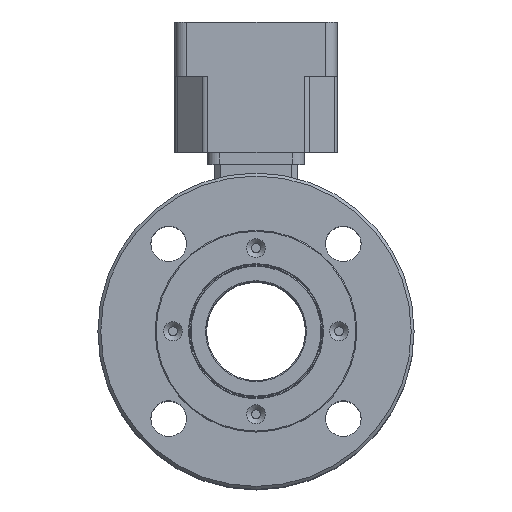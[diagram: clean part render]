
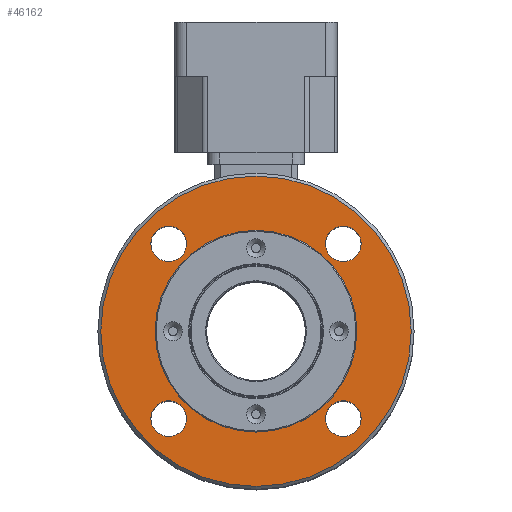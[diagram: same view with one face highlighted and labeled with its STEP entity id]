
A CAD part, top view. The second image highlights one B-rep face of the part: STEP entity #46162.
In plain terms, the highlighted planar face has unit normal (0, 0, 1).
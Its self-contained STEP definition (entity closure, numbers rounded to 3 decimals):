
#1590=FACE_BOUND('',#5985,.T.);
#1591=FACE_BOUND('',#5986,.T.);
#1592=FACE_BOUND('',#5987,.T.);
#1593=FACE_BOUND('',#5988,.T.);
#1594=FACE_BOUND('',#5989,.T.);
#1879=PLANE('',#48890);
#3383=FACE_OUTER_BOUND('',#5984,.T.);
#5984=EDGE_LOOP('',(#30133));
#5985=EDGE_LOOP('',(#30134));
#5986=EDGE_LOOP('',(#30135,#30136));
#5987=EDGE_LOOP('',(#30137,#30138));
#5988=EDGE_LOOP('',(#30139,#30140));
#5989=EDGE_LOOP('',(#30141,#30142));
#17731=CIRCLE('',#48875,9.);
#17732=CIRCLE('',#48876,9.);
#17734=CIRCLE('',#48879,9.);
#17735=CIRCLE('',#48880,9.);
#17737=CIRCLE('',#48883,9.);
#17738=CIRCLE('',#48884,9.);
#17740=CIRCLE('',#48887,9.);
#17741=CIRCLE('',#48888,9.);
#17743=CIRCLE('',#48891,78.5);
#17744=CIRCLE('',#48892,51.);
#18998=VERTEX_POINT('',#63643);
#18999=VERTEX_POINT('',#63644);
#19001=VERTEX_POINT('',#63651);
#19002=VERTEX_POINT('',#63652);
#19004=VERTEX_POINT('',#63659);
#19005=VERTEX_POINT('',#63660);
#19007=VERTEX_POINT('',#63667);
#19008=VERTEX_POINT('',#63668);
#19010=VERTEX_POINT('',#63675);
#19011=VERTEX_POINT('',#63677);
#23326=EDGE_CURVE('',#18998,#18999,#17731,.T.);
#23327=EDGE_CURVE('',#18999,#18998,#17732,.T.);
#23330=EDGE_CURVE('',#19001,#19002,#17734,.T.);
#23331=EDGE_CURVE('',#19002,#19001,#17735,.T.);
#23334=EDGE_CURVE('',#19004,#19005,#17737,.T.);
#23335=EDGE_CURVE('',#19005,#19004,#17738,.T.);
#23338=EDGE_CURVE('',#19007,#19008,#17740,.T.);
#23339=EDGE_CURVE('',#19008,#19007,#17741,.T.);
#23342=EDGE_CURVE('',#19010,#19010,#17743,.T.);
#23343=EDGE_CURVE('',#19011,#19011,#17744,.T.);
#30133=ORIENTED_EDGE('',*,*,#23342,.F.);
#30134=ORIENTED_EDGE('',*,*,#23343,.T.);
#30135=ORIENTED_EDGE('',*,*,#23326,.T.);
#30136=ORIENTED_EDGE('',*,*,#23327,.T.);
#30137=ORIENTED_EDGE('',*,*,#23330,.T.);
#30138=ORIENTED_EDGE('',*,*,#23331,.T.);
#30139=ORIENTED_EDGE('',*,*,#23334,.T.);
#30140=ORIENTED_EDGE('',*,*,#23335,.T.);
#30141=ORIENTED_EDGE('',*,*,#23338,.T.);
#30142=ORIENTED_EDGE('',*,*,#23339,.T.);
#46162=ADVANCED_FACE('',(#3383,#1590,#1591,#1592,#1593,#1594),#1879,.T.);
#48875=AXIS2_PLACEMENT_3D('',#63645,#52499,#52500);
#48876=AXIS2_PLACEMENT_3D('',#63646,#52501,#52502);
#48879=AXIS2_PLACEMENT_3D('',#63653,#52508,#52509);
#48880=AXIS2_PLACEMENT_3D('',#63654,#52510,#52511);
#48883=AXIS2_PLACEMENT_3D('',#63661,#52517,#52518);
#48884=AXIS2_PLACEMENT_3D('',#63662,#52519,#52520);
#48887=AXIS2_PLACEMENT_3D('',#63669,#52526,#52527);
#48888=AXIS2_PLACEMENT_3D('',#63670,#52528,#52529);
#48890=AXIS2_PLACEMENT_3D('',#63674,#52533,#52534);
#48891=AXIS2_PLACEMENT_3D('',#63676,#52535,#52536);
#48892=AXIS2_PLACEMENT_3D('',#63678,#52537,#52538);
#52499=DIRECTION('center_axis',(0.,0.,-1.));
#52500=DIRECTION('ref_axis',(-1.,0.,0.));
#52501=DIRECTION('center_axis',(0.,0.,-1.));
#52502=DIRECTION('ref_axis',(-1.,0.,0.));
#52508=DIRECTION('center_axis',(0.,0.,-1.));
#52509=DIRECTION('ref_axis',(-1.,0.,0.));
#52510=DIRECTION('center_axis',(0.,0.,-1.));
#52511=DIRECTION('ref_axis',(-1.,0.,0.));
#52517=DIRECTION('center_axis',(0.,0.,-1.));
#52518=DIRECTION('ref_axis',(-1.,0.,0.));
#52519=DIRECTION('center_axis',(0.,0.,-1.));
#52520=DIRECTION('ref_axis',(-1.,0.,0.));
#52526=DIRECTION('center_axis',(0.,0.,-1.));
#52527=DIRECTION('ref_axis',(-1.,0.,0.));
#52528=DIRECTION('center_axis',(0.,0.,-1.));
#52529=DIRECTION('ref_axis',(-1.,0.,0.));
#52533=DIRECTION('center_axis',(0.,0.,1.));
#52534=DIRECTION('ref_axis',(-1.,0.,0.));
#52535=DIRECTION('center_axis',(0.,0.,-1.));
#52536=DIRECTION('ref_axis',(0.,1.,0.));
#52537=DIRECTION('center_axis',(0.,0.,-1.));
#52538=DIRECTION('ref_axis',(-1.,0.,0.));
#63643=CARTESIAN_POINT('',(-53.194,44.194,0.));
#63644=CARTESIAN_POINT('',(-35.194,44.194,0.));
#63645=CARTESIAN_POINT('Origin',(-44.194,44.194,0.));
#63646=CARTESIAN_POINT('Origin',(-44.194,44.194,0.));
#63651=CARTESIAN_POINT('',(35.194,-44.194,0.));
#63652=CARTESIAN_POINT('',(53.194,-44.194,0.));
#63653=CARTESIAN_POINT('Origin',(44.194,-44.194,0.));
#63654=CARTESIAN_POINT('Origin',(44.194,-44.194,0.));
#63659=CARTESIAN_POINT('',(-53.194,-44.194,0.));
#63660=CARTESIAN_POINT('',(-35.194,-44.194,0.));
#63661=CARTESIAN_POINT('Origin',(-44.194,-44.194,0.));
#63662=CARTESIAN_POINT('Origin',(-44.194,-44.194,0.));
#63667=CARTESIAN_POINT('',(35.194,44.194,0.));
#63668=CARTESIAN_POINT('',(53.194,44.194,0.));
#63669=CARTESIAN_POINT('Origin',(44.194,44.194,0.));
#63670=CARTESIAN_POINT('Origin',(44.194,44.194,0.));
#63674=CARTESIAN_POINT('Origin',(0.,-80.,0.));
#63675=CARTESIAN_POINT('',(0.,-78.5,0.));
#63676=CARTESIAN_POINT('Origin',(0.,0.,0.));
#63677=CARTESIAN_POINT('',(-51.,0.,0.));
#63678=CARTESIAN_POINT('Origin',(0.,0.,0.));
